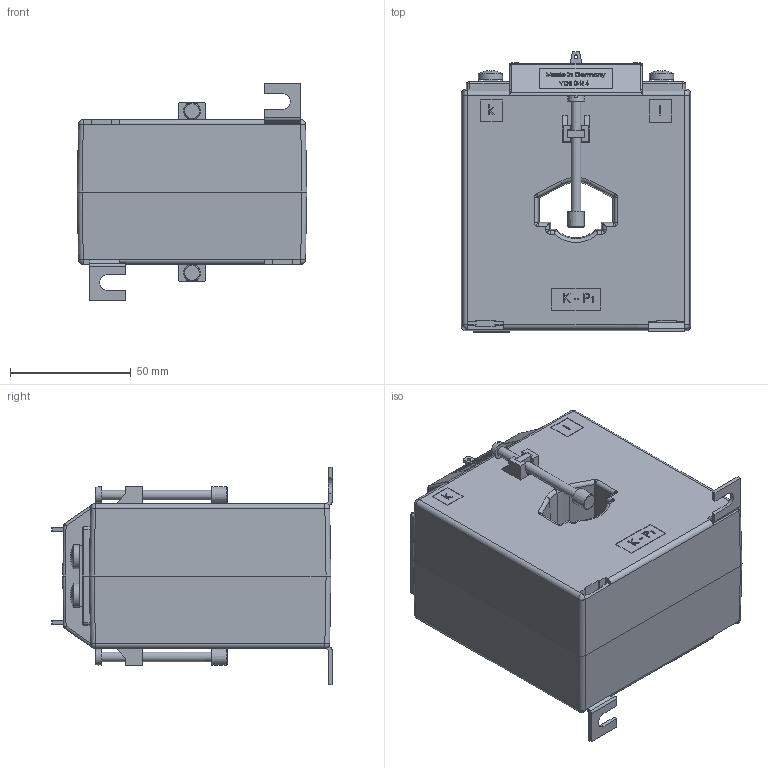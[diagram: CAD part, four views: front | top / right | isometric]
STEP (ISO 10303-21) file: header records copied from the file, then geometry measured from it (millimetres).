
FILE_DESCRIPTION(/* description */ (''),/* implementation_level */ '2;1');
FILE_NAME(/* name */ 'ASK31.6.stp',/* time_stamp */ '2024-03-04T12:25:46+01:00',/* author */ ('JDI'),/* organization */ (''),/* preprocessor_version */ 'ST-DEVELOPER v19.2',/* originating_system */ 'Autodesk Inventor 2023',/* authorisation */ '');
FILE_SCHEMA (('AUTOMOTIVE_DESIGN { 1 0 10303 214 3 1 1 }'));
Products named in the file (1): ASK31.6
Bounding box: 95 x 116 x 90 mm (x, y, z)
Volume: 561370.6 mm3; surface area: 57184.3 mm2
Topology: 3 solids, 3 shells, 1360 faces, 3548 edges, 2246 vertices
Faces by surface type: plane 912, bspline 266, cylinder 124, sphere 20, torus 20, cone 18
Full cylindrical faces by diameter (mm): 1.6 x2, 4 x4, 4.1 x2, 10 x4
Entity records: 55187 total; most frequent: CARTESIAN_POINT 22031, ORIENTED_EDGE 7080, DIRECTION 5728, EDGE_CURVE 3540, LINE 2570, VECTOR 2570, VERTEX_POINT 2246, AXIS2_PLACEMENT_3D 1579
